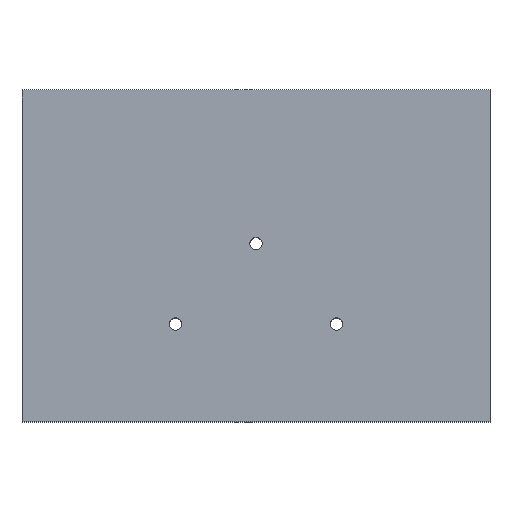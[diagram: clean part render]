
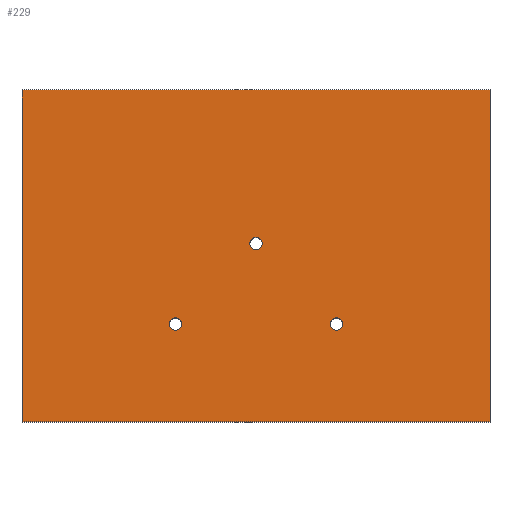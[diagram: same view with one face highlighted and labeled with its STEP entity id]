
A CAD part, top view. The second image highlights one B-rep face of the part: STEP entity #229.
In plain terms, the highlighted planar face has unit normal (0, 0, 1).
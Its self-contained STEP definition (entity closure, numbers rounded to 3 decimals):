
#2 = DIRECTION ( 'NONE',  ( 1., 0., 0. ) ) ;
#8 = ORIENTED_EDGE ( 'NONE', *, *, #347, .F. ) ;
#26 = CARTESIAN_POINT ( 'NONE',  ( -38.1, 27., 17.5 ) ) ;
#93 = DIRECTION ( 'NONE',  ( 1., 0., 0. ) ) ;
#112 = FACE_OUTER_BOUND ( 'NONE', #270, .T. ) ;
#131 = ORIENTED_EDGE ( 'NONE', *, *, #1263, .T. ) ;
#164 = CARTESIAN_POINT ( 'NONE',  ( 13.1, -11.1, 17.5 ) ) ;
#173 = VECTOR ( 'NONE', #680, 1000. ) ;
#174 = VERTEX_POINT ( 'NONE', #221 ) ;
#175 = EDGE_CURVE ( 'NONE', #677, #452, #1026, .T. ) ;
#204 = CARTESIAN_POINT ( 'NONE',  ( -38.1, -27., 17.5 ) ) ;
#217 = VECTOR ( 'NONE', #905, 1000. ) ;
#221 = CARTESIAN_POINT ( 'NONE',  ( 38.1, -27., 17.5 ) ) ;
#225 = CARTESIAN_POINT ( 'NONE',  ( -13.1, -11.1, 17.5 ) ) ;
#229 = ADVANCED_FACE ( 'NONE', ( #1340, #112, #334, #1218 ), #595, .T. ) ;
#239 = CARTESIAN_POINT ( 'NONE',  ( -12.1, -11.1, 17.5 ) ) ;
#256 = CARTESIAN_POINT ( 'NONE',  ( -38.1, 27., 17.5 ) ) ;
#262 = CARTESIAN_POINT ( 'NONE',  ( 38.1, 27., 17.5 ) ) ;
#268 = AXIS2_PLACEMENT_3D ( 'NONE', #164, #1152, #760 ) ;
#270 = EDGE_LOOP ( 'NONE', ( #655, #1435, #131, #875 ) ) ;
#283 = VERTEX_POINT ( 'NONE', #1104 ) ;
#317 = CIRCLE ( 'NONE', #268, 1. ) ;
#334 = FACE_BOUND ( 'NONE', #597, .T. ) ;
#347 = EDGE_CURVE ( 'NONE', #728, #858, #842, .T. ) ;
#375 = DIRECTION ( 'NONE',  ( -1., 0., 0. ) ) ;
#383 = CARTESIAN_POINT ( 'NONE',  ( -38.1, 27., 17.5 ) ) ;
#386 = EDGE_CURVE ( 'NONE', #1299, #460, #660, .T. ) ;
#442 = DIRECTION ( 'NONE',  ( 1., 0., 0. ) ) ;
#447 = DIRECTION ( 'NONE',  ( 0., 0., 1. ) ) ;
#452 = VERTEX_POINT ( 'NONE', #1148 ) ;
#460 = VERTEX_POINT ( 'NONE', #796 ) ;
#506 = LINE ( 'NONE', #383, #1405 ) ;
#511 = AXIS2_PLACEMENT_3D ( 'NONE', #722, #1225, #1474 ) ;
#558 = EDGE_CURVE ( 'NONE', #858, #728, #609, .T. ) ;
#595 = PLANE ( 'NONE',  #1156 ) ;
#597 = EDGE_LOOP ( 'NONE', ( #1454, #708 ) ) ;
#609 = CIRCLE ( 'NONE', #1288, 1. ) ;
#634 = AXIS2_PLACEMENT_3D ( 'NONE', #1120, #1377, #2 ) ;
#655 = ORIENTED_EDGE ( 'NONE', *, *, #725, .T. ) ;
#660 = CIRCLE ( 'NONE', #511, 1. ) ;
#670 = EDGE_CURVE ( 'NONE', #952, #843, #719, .T. ) ;
#677 = VERTEX_POINT ( 'NONE', #1095 ) ;
#680 = DIRECTION ( 'NONE',  ( 1., 0., 0. ) ) ;
#708 = ORIENTED_EDGE ( 'NONE', *, *, #1241, .F. ) ;
#719 = LINE ( 'NONE', #256, #1382 ) ;
#722 = CARTESIAN_POINT ( 'NONE',  ( 0., 2., 17.5 ) ) ;
#725 = EDGE_CURVE ( 'NONE', #843, #283, #506, .T. ) ;
#728 = VERTEX_POINT ( 'NONE', #239 ) ;
#760 = DIRECTION ( 'NONE',  ( 1., 0., 0. ) ) ;
#779 = CIRCLE ( 'NONE', #934, 1. ) ;
#796 = CARTESIAN_POINT ( 'NONE',  ( 1., 2., 17.5 ) ) ;
#821 = DIRECTION ( 'NONE',  ( 0., 0., 1. ) ) ;
#825 = DIRECTION ( 'NONE',  ( 0., 0., 1. ) ) ;
#827 = EDGE_CURVE ( 'NONE', #452, #677, #317, .T. ) ;
#842 = CIRCLE ( 'NONE', #634, 1. ) ;
#843 = VERTEX_POINT ( 'NONE', #26 ) ;
#858 = VERTEX_POINT ( 'NONE', #1023 ) ;
#875 = ORIENTED_EDGE ( 'NONE', *, *, #670, .T. ) ;
#890 = CARTESIAN_POINT ( 'NONE',  ( -1., 2., 17.5 ) ) ;
#898 = DIRECTION ( 'NONE',  ( 1., 0., 0. ) ) ;
#905 = DIRECTION ( 'NONE',  ( 0., 1., 0. ) ) ;
#930 = ORIENTED_EDGE ( 'NONE', *, *, #827, .F. ) ;
#934 = AXIS2_PLACEMENT_3D ( 'NONE', #1397, #1511, #898 ) ;
#935 = DIRECTION ( 'NONE',  ( 1., 0., 0. ) ) ;
#951 = CARTESIAN_POINT ( 'NONE',  ( 38.1, 27., 17.5 ) ) ;
#952 = VERTEX_POINT ( 'NONE', #951 ) ;
#1023 = CARTESIAN_POINT ( 'NONE',  ( -14.1, -11.1, 17.5 ) ) ;
#1026 = CIRCLE ( 'NONE', #1524, 1. ) ;
#1066 = CARTESIAN_POINT ( 'NONE',  ( 13.1, -11.1, 17.5 ) ) ;
#1095 = CARTESIAN_POINT ( 'NONE',  ( 12.1, -11.1, 17.5 ) ) ;
#1104 = CARTESIAN_POINT ( 'NONE',  ( -38.1, -27., 17.5 ) ) ;
#1105 = EDGE_LOOP ( 'NONE', ( #1479, #8 ) ) ;
#1120 = CARTESIAN_POINT ( 'NONE',  ( -13.1, -11.1, 17.5 ) ) ;
#1145 = ORIENTED_EDGE ( 'NONE', *, *, #175, .F. ) ;
#1148 = CARTESIAN_POINT ( 'NONE',  ( 14.1, -11.1, 17.5 ) ) ;
#1152 = DIRECTION ( 'NONE',  ( 0., 0., 1. ) ) ;
#1156 = AXIS2_PLACEMENT_3D ( 'NONE', #1558, #821, #442 ) ;
#1218 = FACE_BOUND ( 'NONE', #1606, .T. ) ;
#1225 = DIRECTION ( 'NONE',  ( 0., 0., 1. ) ) ;
#1241 = EDGE_CURVE ( 'NONE', #460, #1299, #779, .T. ) ;
#1249 = LINE ( 'NONE', #262, #217 ) ;
#1263 = EDGE_CURVE ( 'NONE', #174, #952, #1249, .T. ) ;
#1288 = AXIS2_PLACEMENT_3D ( 'NONE', #225, #825, #93 ) ;
#1299 = VERTEX_POINT ( 'NONE', #890 ) ;
#1314 = LINE ( 'NONE', #204, #173 ) ;
#1340 = FACE_BOUND ( 'NONE', #1105, .T. ) ;
#1349 = DIRECTION ( 'NONE',  ( 0., -1., 0. ) ) ;
#1377 = DIRECTION ( 'NONE',  ( 0., 0., 1. ) ) ;
#1382 = VECTOR ( 'NONE', #375, 1000. ) ;
#1397 = CARTESIAN_POINT ( 'NONE',  ( 0., 2., 17.5 ) ) ;
#1405 = VECTOR ( 'NONE', #1349, 1000. ) ;
#1427 = EDGE_CURVE ( 'NONE', #283, #174, #1314, .T. ) ;
#1435 = ORIENTED_EDGE ( 'NONE', *, *, #1427, .T. ) ;
#1454 = ORIENTED_EDGE ( 'NONE', *, *, #386, .F. ) ;
#1474 = DIRECTION ( 'NONE',  ( 1., 0., 0. ) ) ;
#1479 = ORIENTED_EDGE ( 'NONE', *, *, #558, .F. ) ;
#1511 = DIRECTION ( 'NONE',  ( 0., 0., 1. ) ) ;
#1524 = AXIS2_PLACEMENT_3D ( 'NONE', #1066, #447, #935 ) ;
#1558 = CARTESIAN_POINT ( 'NONE',  ( 0., 0., 17.5 ) ) ;
#1606 = EDGE_LOOP ( 'NONE', ( #1145, #930 ) ) ;
